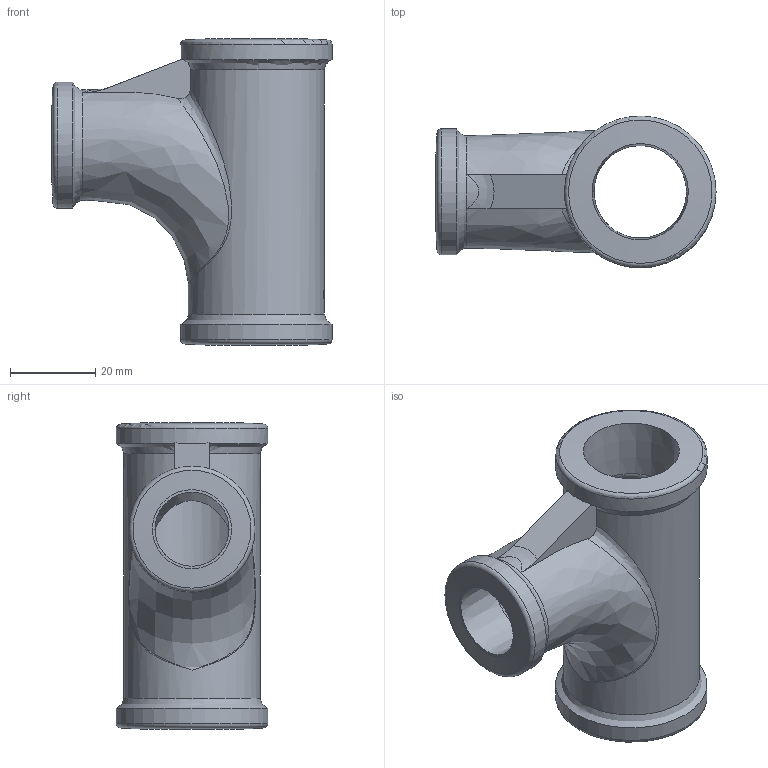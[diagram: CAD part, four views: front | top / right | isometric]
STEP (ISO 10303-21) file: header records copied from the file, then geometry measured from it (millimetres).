
FILE_DESCRIPTION((''),'2;1');
FILE_NAME('P:\Fastrack\53909_CRANE\Crane\Fig.199 Pitcher Tee\New 0.75 inch\199-0.75x0.50.stp','2009-09-17T10:32:53',('btaylor'),(''),'Autodesk Inventor 2008','Autodesk Inventor 2008','');
FILE_SCHEMA(('AUTOMOTIVE_DESIGN { 1 0 10303 214 1 1 1 1 }'));
Length unit declared in the file: millimetre
Products named in the file (1): 199-0.75x0.50
Bounding box: 65.8 x 35.6 x 72 mm (x, y, z)
Volume: 34441.3 mm3; surface area: 19331.8 mm2
Topology: 1 solids, 1 shells, 50 faces, 152 edges, 103 vertices
Faces by surface type: bspline 18, plane 15, cylinder 8, cone 6, torus 3
Full cylindrical faces by diameter (mm): 25.9 x1, 29.6 x1, 32 x1, 35.6 x2
Entity records: 4554 total; most frequent: CARTESIAN_POINT 3350, ORIENTED_EDGE 262, DIRECTION 192, EDGE_CURVE 131, VERTEX_POINT 100, AXIS2_PLACEMENT_3D 84, EDGE_LOOP 71, B_SPLINE_CURVE_WITH_KNOTS 56
